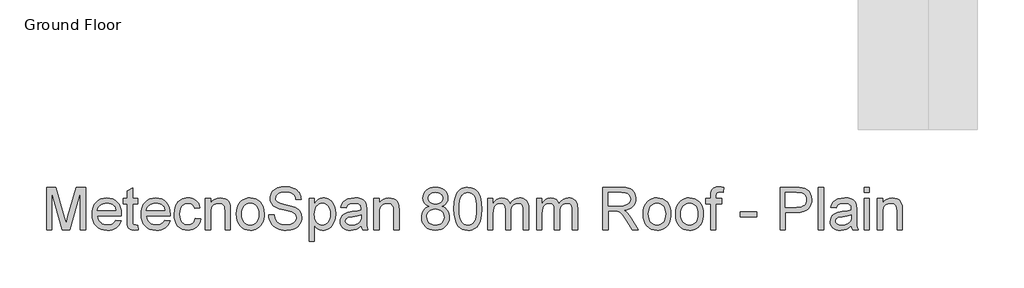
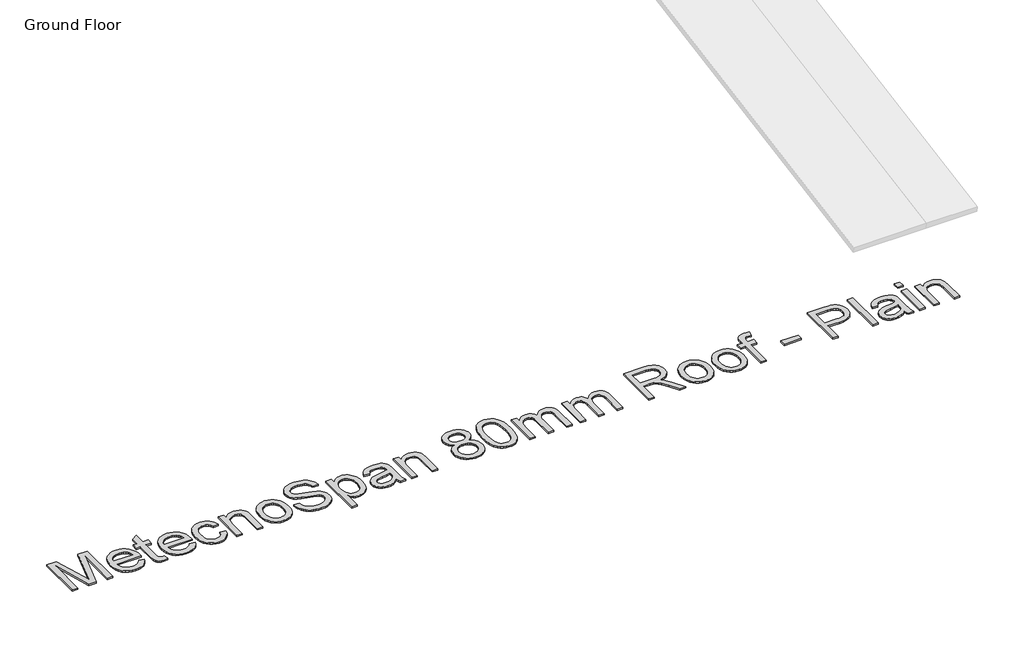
# One storey, part 7 of 14: 1 proxy.
"""IFC4 building model written with IfcOpenShell, lengths in millimetres."""

import ifcopenshell
import ifcopenshell.guid

model = None  # the IFC model being written
_history = None  # IfcOwnerHistory: only IFC2X3 demands one
_inside = {}  # id of a spatial element -> (the spatial element, [elements in it])
_under = {}  # id of a project, library or spatial element -> (it, [spatial elements below it])
_declared = {}  # id of a project -> (the project, [libraries it declares])
_typed = {}  # id of a type object -> (the type object, [elements of that type])
_made_of = {}  # id of a material, layer set ... -> (it, [elements and type objects made of it])


def new_model(schema):
    """Start an empty IFC model of exactly this schema.

    Asked for "IFC4X3", IfcOpenShell would pick the latest addendum, in which some entities
    have other attributes; the version numbers below select the first issue.
    IFC2X3 requires an IfcOwnerHistory on every rooted entity: one is made here for all.
    """
    global model, _history
    if schema == "IFC4X3":
        model = ifcopenshell.file(schema_version=(4, 3, 0, 0))
    else:
        model = ifcopenshell.file(schema=schema)
    _inside.clear()
    _under.clear()
    _declared.clear()
    _typed.clear()
    _made_of.clear()
    _history = None
    if model.schema == "IFC2X3":
        org = make("IfcOrganization", Name="unknown")
        user = make(
            "IfcPersonAndOrganization",
            ThePerson=make("IfcPerson", FamilyName="unknown"),
            TheOrganization=org,
        )
        app = make(
            "IfcApplication",
            ApplicationDeveloper=org,
            Version="unknown",
            ApplicationFullName="unknown",
            ApplicationIdentifier="unknown",
        )
        _history = make(
            "IfcOwnerHistory",
            OwningUser=user,
            OwningApplication=app,
            ChangeAction="ADDED",
            CreationDate=0,
        )
    return model


def make(cls, **values):
    """One entity of the class cls with the attributes given. An attribute that is None is left unset."""
    return model.create_entity(
        cls, **{name: value for name, value in values.items() if value is not None}
    )


def rooted(cls, **values):
    """An entity with a GlobalId (a new one), such as an element, a storey or a relation."""
    return make(cls, GlobalId=ifcopenshell.guid.new(), OwnerHistory=_history, **values)


def si_unit(unit_type, name, prefix=None):
    """IfcSIUnit, for example si_unit("LENGTHUNIT", "METRE", prefix="MILLI")."""
    return make("IfcSIUnit", UnitType=unit_type, Prefix=prefix, Name=name)


def assignment(units):
    """IfcUnitAssignment: the units of a project."""
    return None if units is None else make("IfcUnitAssignment", Units=units)


def point(xyz):
    """IfcCartesianPoint."""
    return None if xyz is None else make("IfcCartesianPoint", Coordinates=xyz)


def direction(xyz):
    """IfcDirection."""
    return None if xyz is None else make("IfcDirection", DirectionRatios=xyz)


def frame(location, z_axis=None, x_axis=None):
    """IfcAxis2Placement3D, a coordinate frame: its origin and axes. An axis left out is left unset."""
    return make(
        "IfcAxis2Placement3D",
        Location=point(location),
        Axis=direction(z_axis),
        RefDirection=direction(x_axis),
    )


def origin():
    """The frame at (0, 0, 0) with its axes left unset."""
    return frame((0.0, 0.0, 0.0))


def origin_with_axes():
    """The frame at (0, 0, 0) with the z axis (0, 0, 1) and the x axis (1, 0, 0) written out."""
    return frame((0.0, 0.0, 0.0), z_axis=(0.0, 0.0, 1.0), x_axis=(1.0, 0.0, 0.0))


def place(relative_to, where):
    """IfcLocalPlacement: puts the frame where relative to a parent placement (None: the world)."""
    return make(
        "IfcLocalPlacement", PlacementRelTo=relative_to, RelativePlacement=where
    )


def context(
    kind, dimensions, precision=None, world=None, true_north=None, identifier=None
):
    """IfcGeometricRepresentationContext, for example the 3D "Model" context."""
    return make(
        "IfcGeometricRepresentationContext",
        ContextIdentifier=identifier,
        ContextType=kind,
        CoordinateSpaceDimension=dimensions,
        Precision=precision,
        WorldCoordinateSystem=world,
        TrueNorth=true_north,
    )


def project(units=None, contexts=None):
    """IfcProject with its units and contexts."""
    return rooted(
        "IfcProject",
        Name="project",
        RepresentationContexts=contexts,
        UnitsInContext=assignment(units),
    )


def spatial(cls, under=None, at=None, **own):
    """A site, building, storey or space (cls), placed at a placement, below another one or the project."""
    s = rooted(cls, ObjectPlacement=at, **own)
    if under is not None:
        _under.setdefault(under.id(), (under, []))[1].append(s)
    return s


def polyline(points):
    """IfcPolyline through the points."""
    return make("IfcPolyline", Points=[point(p) for p in points])


def outline(outer, holes=None, kind="AREA"):
    """IfcArbitraryClosedProfileDef: a profile drawn as a closed curve; with holes, ...WithVoids."""
    if holes is None:
        return make("IfcArbitraryClosedProfileDef", ProfileType=kind, OuterCurve=outer)
    return make(
        "IfcArbitraryProfileDefWithVoids",
        ProfileType=kind,
        OuterCurve=outer,
        InnerCurves=holes,
    )


def extrude(swept, where, along, depth):
    """IfcExtrudedAreaSolid: the profile swept, set in the frame where, extruded along a direction by depth."""
    return make(
        "IfcExtrudedAreaSolid",
        SweptArea=swept,
        Position=where,
        ExtrudedDirection=direction(along),
        Depth=depth,
    )


def shape(context_of_items, identifier, shape_type, items):
    """IfcShapeRepresentation: the items that make up one representation, for example the "Body"."""
    return make(
        "IfcShapeRepresentation",
        ContextOfItems=context_of_items,
        RepresentationIdentifier=identifier,
        RepresentationType=shape_type,
        Items=items,
    )


def made_of(thing, what):
    """Note that an element or type object is made of a material, layer set ...; save() writes the relation."""
    if what is not None:
        _made_of.setdefault(what.id(), (what, []))[1].append(thing)
    return thing


def element(
    cls,
    number,
    at=None,
    inside=None,
    cuts=None,
    type_object=None,
    material=None,
    context=None,
    identifier="Body",
    shape_type=None,
    held_by="IfcProductDefinitionShape",
    body=None,
    shapes=None,
    **own,
):
    """One element of the class cls, such as IfcWall. Its Tag is "e" and its number.

    at: its placement. inside: the storey or other place that contains it. cuts: it is an
    opening in that element (IfcRelVoidsElement). A single representation is given by context,
    identifier, shape_type and body (its items); several are given by shapes. held_by: the class
    of the entity that holds the representations. save() writes the other relations.
    """
    e = rooted(cls, Tag="e%d" % number, ObjectPlacement=at, **own)
    if body is not None:
        shapes = [shape(context, identifier, shape_type, body)]
    if shapes is not None:
        e.Representation = make(held_by, Representations=shapes)
    if inside is not None:
        _inside.setdefault(inside.id(), (inside, []))[1].append(e)
    if cuts is not None:
        rooted(
            "IfcRelVoidsElement", RelatingBuildingElement=cuts, RelatedOpeningElement=e
        )
    if type_object is not None:
        _typed.setdefault(type_object.id(), (type_object, []))[1].append(e)
    return made_of(e, material)


def aggregate(whole, parts):
    """IfcRelAggregates: a whole, such as a stair, and the parts it consists of."""
    return rooted("IfcRelAggregates", RelatingObject=whole, RelatedObjects=parts)


def save(model, path):
    """Write the relations noted so far, then the file.

    IfcRelAggregates (storeys below a building ...), IfcRelContainedInSpatialStructure (elements
    in a storey), IfcRelDefinesByType, IfcRelAssociatesMaterial and IfcRelDeclares: one each for
    every whole, place, type object, material and project.
    """
    for whole, parts in _under.values():
        aggregate(whole, parts)
    for where, things in _inside.values():
        rooted(
            "IfcRelContainedInSpatialStructure",
            RelatedElements=things,
            RelatingStructure=where,
        )
    for kind, things in _typed.values():
        rooted("IfcRelDefinesByType", RelatedObjects=things, RelatingType=kind)
    for what, things in _made_of.values():
        rooted("IfcRelAssociatesMaterial", RelatedObjects=things, RelatingMaterial=what)
    for by, libraries in _declared.values():
        rooted("IfcRelDeclares", RelatingContext=by, RelatedDefinitions=libraries)
    model.write(path)


model = new_model("IFC4")

# Units and contexts
model_context = context("Model", 3, world=origin())
ifc_project = project(units=[si_unit("LENGTHUNIT", "METRE", prefix="MILLI")], contexts=[model_context])

# Site, building, storey
site = spatial("IfcSite", under=ifc_project)
building = spatial("IfcBuilding", under=site)
storey = spatial("IfcBuildingStorey", under=building, Name="Ground Floor", Elevation=0.0)

# Proxy
placement = place(None, origin())
element("IfcBuildingElementProxy", 1, Name="600mm Arial", ObjectType="600mm Arial", at=placement, inside=storey, context=model_context, shape_type="SweptSolid", body=[
    extrude(outline(polyline([(42888.0190952, -5382.5513721), (42888.0190952, -4779.8135112), (43017.6607103, -4779.8135112), (43140.9747551, -5204.6436392), (43165.843578, -5293.3767765), (43192.77254, -5197.2859993), (43314.0264456, -4779.8135112), (43443.6680607, -4779.8135112), (43443.6680607, -5382.5513721), (43368.3258281, -5382.5513721), (43368.3258281, -4855.1557438), (43216.9055989, -5382.5513721), (43114.7815571, -5382.5513721), (42963.3613278, -4855.1557438), (42963.3613278, -5382.5513721), (42888.0190952, -5382.5513721)])), origin_with_axes(), (0.0, 0.0, 1.0), 20.0),
    extrude(outline(polyline([(43876.0029815, -5250.702465), (43949.8736861, -5260.1202441), (43938.5475192, -5289.7071536), (43923.2574238, -5315.78079), (43904.0033998, -5338.3411533), (43880.7854474, -5357.3882436), (43853.8426898, -5372.5173907), (43823.4142503, -5383.3239243), (43789.5001288, -5389.8078444), (43752.1003255, -5391.9691512), (43705.351721, -5388.2397474), (43663.6982821, -5377.0515363), (43627.1400088, -5358.4045176), (43595.6769012, -5332.2986916), (43570.3758169, -5299.460625), (43552.3036139, -5260.6168848), (43541.4602921, -5215.7674711), (43537.8458515, -5164.9123837), (43541.4970803, -5112.3328496), (43552.4507667, -5065.9889152), (43570.7069107, -5025.8805807), (43596.2655123, -4992.007846), (43627.6458465, -4965.0972781), (43663.3671883, -4945.8754438), (43703.4295375, -4934.3423433), (43747.8328944, -4930.4979764), (43790.8061099, -4934.3331462), (43829.6682442, -4945.8386556), (43864.4192972, -4965.0145046), (43895.0592688, -4991.8606932), (43920.070646, -5025.6598515), (43937.9359154, -5065.6946096), (43948.655077, -5111.9649676), (43952.2281309, -5164.4709254), (43951.7866725, -5184.7780115), (43613.1880841, -5184.7780115), (43617.5520843, -5214.8431675), (43626.2295009, -5241.1743213), (43639.2203338, -5263.7714729), (43656.5245832, -5282.6346222), (43677.1857557, -5297.5062519), (43700.2473583, -5308.1288445), (43725.7093909, -5314.5024), (43753.5718535, -5316.6269186), (43793.670991, -5312.6905812), (43827.4425581, -5300.8815692), (43854.886555, -5280.4641184), (43876.0029815, -5250.702465)]), holes=[polyline([(43613.1880841, -5109.4357789), (43876.8858983, -5109.4357789), (43866.695567, -5069.630947), (43857.9307785, -5053.9775681), (43846.7195747, -5041.1568806), (43826.1733652, -5025.7058368), (43802.7944644, -5014.6693769), (43776.5828723, -5008.047501), (43747.5385888, -5005.840209), (43721.0464866, -5007.6014441), (43696.7524793, -5012.8851492), (43674.656567, -5021.6913245), (43654.7587496, -5034.0199699), (43638.0615055, -5049.3008682), (43625.5673133, -5066.9638025), (43617.2761728, -5087.0087727), (43613.1880841, -5109.4357789)])]), origin_with_axes(), (0.0, 0.0, 1.0), 20.0),
    extrude(outline(polyline([(44187.6726078, -5319.7171273), (44197.0903869, -5384.7586641), (44140.7308652, -5391.9691512), (44104.5680651, -5388.8421542), (44077.6023148, -5379.4611633), (44058.5460275, -5365.0034009), (44046.111616, -5346.6460894), (44039.2690109, -5315.1186024), (44036.9881426, -5261.1503137), (44036.9881426, -5015.2579881), (43980.4814681, -5015.2579881), (43980.4814681, -4939.9157555), (44036.9881426, -4939.9157555), (44036.9881426, -4832.3470601), (44112.3303752, -4788.0540679), (44112.3303752, -4939.9157555), (44187.6726078, -4939.9157555), (44187.6726078, -5015.2579881), (44112.3303752, -5015.2579881), (44112.3303752, -5258.9430217), (44116.3035007, -5297.7913604), (44129.1793706, -5311.550147), (44140.0502835, -5315.3577257), (44154.8575338, -5316.6269186), (44187.6726078, -5319.7171273)])), origin_with_axes(), (0.0, 0.0, 1.0), 20.0),
    extrude(outline(polyline([(44572.9186331, -5250.702465), (44646.7893378, -5260.1202441), (44635.4631708, -5289.7071536), (44620.1730754, -5315.78079), (44600.9190515, -5338.3411533), (44577.7010991, -5357.3882436), (44550.7583415, -5372.5173907), (44520.3299019, -5383.3239243), (44486.4157805, -5389.8078444), (44449.0159772, -5391.9691512), (44402.2673726, -5388.2397474), (44360.6139337, -5377.0515363), (44324.0556605, -5358.4045176), (44292.5925528, -5332.2986916), (44267.2914686, -5299.460625), (44249.2192656, -5260.6168848), (44238.3759438, -5215.7674711), (44234.7615032, -5164.9123837), (44238.412732, -5112.3328496), (44249.3664184, -5065.9889152), (44267.6225624, -5025.8805807), (44293.181164, -4992.007846), (44324.5614982, -4965.0972781), (44360.2828399, -4945.8754438), (44400.3451892, -4934.3423433), (44444.748546, -4930.4979764), (44487.7217616, -4934.3331462), (44526.5838958, -4945.8386556), (44561.3349488, -4965.0145046), (44591.9749205, -4991.8606932), (44616.9862976, -5025.6598515), (44634.851567, -5065.6946096), (44645.5707287, -5111.9649676), (44649.1437825, -5164.4709254), (44648.7023241, -5184.7780115), (44310.1037358, -5184.7780115), (44314.467736, -5214.8431675), (44323.1451525, -5241.1743213), (44336.1359855, -5263.7714729), (44353.4402348, -5282.6346222), (44374.1014074, -5297.5062519), (44397.1630099, -5308.1288445), (44422.6250425, -5314.5024), (44450.4875051, -5316.6269186), (44490.5866426, -5312.6905812), (44524.3582098, -5300.8815692), (44551.8022066, -5280.4641184), (44572.9186331, -5250.702465)]), holes=[polyline([(44310.1037358, -5109.4357789), (44573.8015499, -5109.4357789), (44563.6112187, -5069.630947), (44554.8464301, -5053.9775681), (44543.6352263, -5041.1568806), (44523.0890169, -5025.7058368), (44499.7101161, -5014.6693769), (44473.4985239, -5008.047501), (44444.4542404, -5005.840209), (44417.9621382, -5007.6014441), (44393.668131, -5012.8851492), (44371.5722187, -5021.6913245), (44351.6744012, -5034.0199699), (44334.9771572, -5049.3008682), (44322.4829649, -5066.9638025), (44314.1918245, -5087.0087727), (44310.1037358, -5109.4357789)])]), origin_with_axes(), (0.0, 0.0, 1.0), 20.0),
    extrude(outline(polyline([(45007.0193875, -5222.4491278), (45082.3616201, -5231.8669069), (45074.1670486, -5267.4181032), (45061.3555581, -5298.8766123), (45043.9271486, -5326.2424342), (45021.8818201, -5349.5155689), (44996.1484745, -5368.0890112), (44967.656014, -5381.3557556), (44936.4044385, -5389.3158023), (44902.393748, -5391.9691512), (44860.1379024, -5388.2673386), (44822.2506554, -5377.1619009), (44788.7320071, -5358.652838), (44759.5819575, -5332.7401499), (44735.986926, -5299.9112804), (44719.1333321, -5260.653673), (44709.0211758, -5214.9673277), (44705.650457, -5162.8522446), (44711.4078102, -5095.805751), (44718.6045018, -5065.6348288), (44728.6798699, -5037.6987898), (44741.7028925, -5012.558654), (44757.7425475, -4990.7754413), (44776.7988349, -4972.3491519), (44798.8717546, -4957.2797857), (44822.9634267, -4945.5627441), (44848.0759714, -4937.1934287), (44874.2093887, -4932.1718395), (44901.3636784, -4930.4979764), (44934.7903562, -4932.7972389), (44965.0256577, -4939.6950263), (44992.0695829, -4951.1913387), (45015.9221317, -4967.2861759), (45036.1786341, -4987.6116562), (45052.4344198, -5011.7998974), (45064.6894887, -5039.8508995), (45072.943841, -5071.7646626), (44997.6016084, -5081.1824416), (44983.9347923, -5048.3121854), (44962.6528188, -5024.7493436), (44934.9329105, -5010.5674927), (44901.9522896, -5005.840209), (44876.3523013, -5008.1670627), (44853.2631076, -5015.1476235), (44832.6847085, -5026.7818916), (44814.617104, -5043.0698669), (44799.9064227, -5064.3886286), (44789.3987932, -5091.1152555), (44783.0942155, -5123.2497478), (44780.9926896, -5160.7921054), (44783.0482303, -5198.9000816), (44789.2148522, -5231.4070544), (44799.4925554, -5258.3130238), (44813.88134, -5279.6179898), (44831.5902595, -5295.8093962), (44851.8283678, -5307.3746864), (44874.5956648, -5314.3138605), (44899.8921505, -5316.6269186), (44938.906036, -5310.8511712), (44955.778024, -5303.6314871), (44970.8933755, -5293.5239293), (44983.8290262, -5280.4181332), (44994.1619117, -5264.2037342), (45001.8920321, -5244.8807324), (45007.0193875, -5222.4491278)])), origin_with_axes(), (0.0, 0.0, 1.0), 20.0),
    extrude(outline(polyline([(45148.2860736, -5382.5513721), (45148.2860736, -4939.9157555), (45223.6283062, -4939.9157555), (45223.6283062, -5001.7199307), (45249.8031102, -4970.5603257), (45281.2386267, -4948.303465), (45317.9348557, -4934.9493486), (45359.8917972, -4930.4979764), (45397.0294846, -4934.0848259), (45431.0401751, -4944.8453742), (45459.4038769, -4961.4368522), (45479.6005985, -4982.5164905), (45493.3042028, -5008.0291069), (45502.188553, -5037.919519), (45506.1616785, -5110.7601541), (45506.1616785, -5382.5513721), (45430.8194459, -5382.5513721), (45430.8194459, -5120.9136971), (45428.6489421, -5081.9549938), (45422.1374308, -5054.2534796), (45410.1260837, -5034.406246), (45391.4560724, -5019.0103845), (45367.5253486, -5009.1327529), (45339.7318639, -5005.840209), (45316.8542023, -5007.6888161), (45295.6044186, -5013.2346371), (45275.9825126, -5022.4776723), (45257.9884846, -5035.4179214), (45242.9559065, -5053.5269127), (45232.2183508, -5078.2761739), (45225.7758174, -5109.6657051), (45223.6283062, -5147.6955064), (45223.6283062, -5382.5513721), (45148.2860736, -5382.5513721)])), origin_with_axes(), (0.0, 0.0, 1.0), 20.0),
    extrude(outline(polyline([(45590.9216902, -5161.2335638), (45594.9959833, -5103.9083519), (45607.2188626, -5054.510997), (45627.5903281, -5013.0414991), (45656.1103797, -4979.4998582), (45684.8235695, -4958.0615349), (45716.5166033, -4942.7484469), (45751.1894814, -4933.560594), (45788.8422036, -4930.4979764), (45830.4082705, -4934.2273801), (45867.9920149, -4945.4155913), (45901.5934366, -4964.06261), (45931.2125357, -4990.168436), (45955.3869813, -5022.8501528), (45972.6544425, -5061.2248434), (45983.0149192, -5105.2925079), (45986.4684114, -5155.0531463), (45984.9417011, -5195.38221), (45980.3615703, -5231.1679311), (45972.7280189, -5262.4103095), (45962.0410469, -5289.1093453), (45948.4340116, -5312.1709479), (45932.0402702, -5332.5010267), (45912.8598227, -5350.0995816), (45890.8926691, -5364.9666127), (45866.994135, -5376.7802233), (45842.019546, -5385.2185166), (45815.9689022, -5390.2814925), (45788.8422036, -5391.9691512), (45746.6691314, -5388.253543), (45708.7358992, -5377.1067186), (45675.0425069, -5358.5286778), (45645.5889547, -5332.5194208), (45621.6720265, -5299.5204058), (45604.5885063, -5259.9730913), (45594.3383942, -5213.8774773), (45590.9216902, -5161.2335638)]), holes=[polyline([(45666.2639228, -5161.086411), (45668.4436236, -5197.6308887), (45674.9827261, -5229.2733388), (45685.8812302, -5256.0137613), (45701.139136, -5277.8521563), (45719.6987826, -5294.8161148), (45740.5025094, -5306.933228), (45763.5503164, -5314.2034959), (45788.8422036, -5316.6269186), (45814.0053321, -5314.1897003), (45836.9611686, -5306.8780457), (45857.7097131, -5294.6919546), (45876.2509657, -5277.6314271), (45891.5088714, -5255.5769015), (45902.4073755, -5228.4088161), (45908.946478, -5196.127171), (45911.1261788, -5158.7319662), (45908.9326824, -5123.3463168), (45902.3521932, -5092.5316012), (45891.3847112, -5066.2878194), (45876.0302365, -5044.6149713), (45857.420006, -5027.6510128), (45836.6852571, -5015.5338996), (45813.8259896, -5008.2636317), (45788.8422036, -5005.840209), (45763.5503164, -5008.2544346), (45740.5025094, -5015.4971114), (45719.6987826, -5027.5682394), (45701.139136, -5044.4678185), (45685.8812302, -5066.2418341), (45674.9827261, -5092.9362714), (45668.4436236, -5124.5511304), (45666.2639228, -5161.086411)])]), origin_with_axes(), (0.0, 0.0, 1.0), 20.0),
    extrude(outline(polyline([(46052.3928649, -5175.3602324), (46127.7350976, -5175.3602324), (46136.3803244, -5217.1700212), (46152.0153092, -5250.7760414), (46176.4058855, -5277.4474861), (46211.3178869, -5298.453548), (46253.9921983, -5312.0835759), (46301.6697049, -5316.6269186), (46343.6450405, -5313.1872219), (46380.3964518, -5302.8681319), (46410.1764994, -5286.5341714), (46431.2377436, -5265.0498628), (46443.7641255, -5240.3833751), (46447.9395862, -5214.5028767), (46444.8125892, -5189.2845659), (46435.4315983, -5167.4875577), (46416.375311, -5148.8911229), (46384.2224246, -5133.2745322), (46274.5200136, -5104.5061601), (46202.5071131, -5085.4682669), (46156.4298932, -5067.3500786), (46118.9243238, -5042.0030092), (46092.3448496, -5011.2848626), (46076.5075297, -4975.8578264), (46071.2284231, -4936.3840883), (46072.8608995, -4913.9478852), (46077.7583285, -4892.256643), (46085.9207103, -4871.3103619), (46097.3480448, -4851.1090419), (46111.9115732, -4832.4758188), (46129.482537, -4816.2338287), (46150.0609361, -4802.3830716), (46173.6467706, -4790.9235475), (46226.6585661, -4775.527686), (46285.3357443, -4770.3957321), (46348.9057531, -4775.7668093), (46404.5295107, -4791.8800406), (46428.8649047, -4803.8821907), (46450.2204545, -4818.4043325), (46468.5961602, -4835.4464659), (46483.9920217, -4855.008591), (46496.2884774, -4876.5204907), (46505.3659656, -4899.4119478), (46511.2244864, -4923.6829625), (46513.8640397, -4949.3335346), (46438.5218071, -4949.3335346), (46433.4818237, -4925.2924462), (46424.6894441, -4904.3783548), (46412.144668, -4886.5912603), (46395.8474956, -4871.9311628), (46375.4944243, -4860.4716386), (46350.7819512, -4852.2862642), (46321.7100766, -4847.3750396), (46288.2788003, -4845.7379647), (46253.7806662, -4847.3566455), (46224.3041213, -4852.2126878), (46199.8491657, -4860.3060917), (46180.4157993, -4871.6368572), (46165.608549, -4885.2576881), (46155.0319416, -4900.2212882), (46148.6859772, -4916.5276577), (46146.5706557, -4934.1767964), (46148.0697748, -4949.3611257), (46152.5671322, -4963.1291094), (46160.0627279, -4975.4807474), (46170.5565618, -4986.4160397), (46187.0744634, -4996.7719179), (46213.0837204, -5007.2381606), (46293.576301, -5028.5017399), (46376.6440555, -5048.6984615), (46426.896736, -5066.320009), (46469.846959, -5093.6536413), (46486.4522325, -5109.7208874), (46499.8109475, -5127.3884202), (46510.0794537, -5146.5642692), (46517.4141009, -5167.1564639), (46523.2818188, -5212.5898903), (46521.5941601, -5236.1573306), (46516.5311842, -5259.0349922), (46508.0928909, -5281.222875), (46496.2792803, -5302.7209791), (46481.2972861, -5322.6969715), (46463.3538418, -5340.318519), (46442.4489474, -5355.5856218), (46418.5826029, -5368.4982799), (46392.4491857, -5378.7667861), (46364.743073, -5386.1014333), (46304.6127608, -5391.9691512), (46266.0725233, -5390.3872586), (46230.7972385, -5385.6415809), (46198.7869064, -5377.732118), (46170.041527, -5366.6588699), (46144.3863564, -5352.4034426), (46121.6466505, -5334.9474419), (46101.8224095, -5314.2908679), (46084.9136333, -5290.4337205), (46071.2928024, -5264.1485519), (46061.3323974, -5236.2079144), (46055.0324183, -5206.6118079), (46052.3928649, -5175.3602324)])), origin_with_axes(), (0.0, 0.0, 1.0), 20.0),
    extrude(outline(polyline([(46626.8773886, -5552.0713955), (46626.8773886, -4939.9157555), (46702.2196212, -4939.9157555), (46702.2196212, -5013.7864601), (46726.7941385, -4977.3477485), (46754.3117117, -4951.3200973), (46786.3910217, -4935.7035067), (46824.6507492, -4930.4979764), (46850.9267207, -4932.3189923), (46875.6024056, -4937.7820399), (46898.6778037, -4946.8871193), (46920.1529152, -4959.6342304), (46939.5586904, -4975.6922795), (46956.4260799, -4994.7301728), (46970.7550836, -5016.7479102), (46982.5457016, -5041.7454918), (46998.3278391, -5097.2588848), (47003.5885517, -5157.8490494), (46997.6472575, -5222.2835809), (46990.2206397, -5251.9486653), (46979.8233748, -5279.9122954), (46966.5980171, -5305.4433059), (46950.6871208, -5327.8105312), (46932.0906859, -5347.0139714), (46910.8087125, -5363.0536264), (46887.8850657, -5375.7041685), (46864.3636106, -5384.74027), (46840.2443473, -5390.1619309), (46815.5272757, -5391.9691512), (46780.8911859, -5387.1315029), (46749.9707042, -5372.6185582), (46723.5015946, -5350.7111854), (46702.2196212, -5323.6902529), (46702.2196212, -5552.0713955), (46626.8773886, -5552.0713955)]), holes=[polyline([(46702.2196212, -5164.765231), (46704.2567678, -5201.0751839), (46710.3682074, -5232.3083653), (46720.5539402, -5258.4647751), (46734.813966, -5279.5444134), (46751.9802596, -5295.7680094), (46770.8847956, -5307.3562923), (46791.5275741, -5314.309262), (46813.908595, -5316.6269186), (46836.6115126, -5314.2264885), (46857.6313701, -5307.0251985), (46876.9681675, -5295.0230484), (46894.6219047, -5278.2200383), (46909.332586, -5256.3770448), (46919.8402155, -5229.2549447), (46926.1447932, -5196.853738), (46928.2463191, -5159.1734246), (46926.1953769, -5123.1761714), (46920.0425506, -5091.9981723), (46909.78784, -5065.6394273), (46895.4312451, -5044.0999365), (46878.2235648, -5027.3613058), (46859.4155978, -5015.4051409), (46839.0073441, -5008.231442), (46816.9988037, -5005.840209), (46795.0592412, -5008.3831933), (46774.4164628, -5016.0121462), (46755.0704684, -5028.7270677), (46737.021258, -5046.5279577), (46721.7955419, -5069.175693), (46710.9200304, -5096.4311503), (46704.3947235, -5128.2943297), (46702.2196212, -5164.765231)])]), origin_with_axes(), (0.0, 0.0, 1.0), 20.0),
    extrude(outline(polyline([(47370.8819357, -5326.0446976), (47334.8846824, -5356.909997), (47297.8205714, -5377.1067186), (47258.843474, -5388.253543), (47217.1072617, -5391.9691512), (47183.5610222, -5389.7342681), (47154.1442582, -5383.0296187), (47128.8569696, -5371.8552031), (47107.6991563, -5356.2110212), (47090.9927152, -5337.0903545), (47079.059543, -5315.4864844), (47071.8996397, -5291.3994107), (47069.5130052, -5264.8291336), (47073.1182488, -5233.5959522), (47083.9339794, -5205.2322504), (47100.6174279, -5180.9520387), (47121.8258249, -5161.9693278), (47146.7498301, -5147.62193), (47174.580103, -5137.2476577), (47239.7687926, -5125.9168923), (47316.8032824, -5113.9975156), (47370.4404773, -5100.0179998), (47370.8819357, -5083.2425808), (47365.6947995, -5049.6181665), (47359.2108794, -5037.1653609), (47350.1333911, -5027.6188231), (47334.443224, -5018.0906795), (47315.3317544, -5011.2848626), (47266.8449074, -5005.840209), (47221.963304, -5009.4638467), (47190.619758, -5020.3347596), (47169.2458141, -5040.4395107), (47154.2730169, -5071.7646626), (47078.9307843, -5062.3468835), (47092.0089892, -5021.1441), (47111.5251291, -4988.7704845), (47139.3002197, -4964.0120262), (47177.155277, -4945.6547146), (47223.4532261, -4934.287161), (47276.5569921, -4930.4979764), (47327.4902543, -4933.8457026), (47367.8653033, -4943.888881), (47398.3075384, -4958.9904369), (47419.442359, -4977.5132954), (47433.458663, -5000.4139496), (47442.5453483, -5028.6488927), (47446.2241683, -5094.5733463), (47446.2241683, -5188.3096786), (47450.050141, -5319.2020925), (47455.7155237, -5351.557314), (47465.0597264, -5382.5513721), (47389.7174938, -5382.5513721), (47377.6509644, -5356.358174), (47370.8819357, -5326.0446976)]), holes=[polyline([(47370.8819357, -5175.3602324), (47320.2613731, -5187.9050084), (47249.3337245, -5198.4632217), (47184.5129169, -5210.6769039), (47167.6455274, -5219.0278252), (47155.1559337, -5230.5425317), (47147.4304118, -5244.3381065), (47144.8552378, -5259.5316329), (47150.4654382, -5281.9356464), (47167.2960395, -5300.292958), (47194.9791597, -5312.5434284), (47233.1469167, -5316.6269186), (47273.6139361, -5312.1203641), (47309.3720661, -5298.6007008), (47338.3611673, -5278.6798908), (47358.5211006, -5254.9698962), (47367.4606331, -5230.5425317), (47370.4404773, -5196.6973881), (47370.8819357, -5175.3602324)])]), origin_with_axes(), (0.0, 0.0, 1.0), 20.0),
    extrude(outline(polyline([(47549.8197381, -5382.5513721), (47549.8197381, -4939.9157555), (47625.1619707, -4939.9157555), (47625.1619707, -5001.7199307), (47651.3367747, -4970.5603257), (47682.7722912, -4948.303465), (47719.4685202, -4934.9493486), (47761.4254617, -4930.4979764), (47798.5631492, -4934.0848259), (47832.5738396, -4944.8453742), (47860.9375414, -4961.4368522), (47881.134263, -4982.5164905), (47894.8378673, -5008.0291069), (47903.7222175, -5037.919519), (47907.695343, -5110.7601541), (47907.695343, -5382.5513721), (47832.3531104, -5382.5513721), (47832.3531104, -5120.9136971), (47830.1826066, -5081.9549938), (47823.6710953, -5054.2534796), (47811.6597482, -5034.406246), (47792.9897369, -5019.0103845), (47769.0590131, -5009.1327529), (47741.2655284, -5005.840209), (47718.3878668, -5007.6888161), (47697.1380831, -5013.2346371), (47677.5161772, -5022.4776723), (47659.5221491, -5035.4179214), (47644.489571, -5053.5269127), (47633.7520153, -5078.2761739), (47627.3094819, -5109.6657051), (47625.1619707, -5147.6955064), (47625.1619707, -5382.5513721), (47549.8197381, -5382.5513721)])), origin_with_axes(), (0.0, 0.0, 1.0), 20.0),
    extrude(outline(polyline([(48337.675819, -5050.5746596), (48297.3375582, -5030.7090319), (48281.6795808, -5018.1274677), (48269.0290387, -5003.7800699), (48252.308802, -4970.3395965), (48246.7353898, -4930.9394348), (48249.7704162, -4900.2120912), (48258.8754956, -4872.0415274), (48274.0506279, -4846.4277435), (48295.2958131, -4823.3707394), (48321.5901787, -4804.3144521), (48351.9128522, -4790.7028183), (48386.2638335, -4782.535838), (48424.6431226, -4779.8135112), (48463.2063528, -4782.6002173), (48497.8148515, -4790.9603357), (48528.4686187, -4804.8938662), (48555.1676545, -4824.400809), (48576.7991158, -4847.9084685), (48592.2501596, -4873.8441492), (48601.5207859, -4902.207851), (48604.6109947, -4932.999574), (48599.1111589, -4971.1305428), (48582.6116514, -5004.0007991), (48570.1910355, -5018.2516278), (48554.9285312, -5030.7642142), (48515.8778574, -5050.5746596), (48540.6409142, -5061.1098803), (48562.2493829, -5074.4685952), (48580.7032635, -5090.6508045), (48596.002556, -5109.6565081), (48608.0093046, -5131.0626417), (48616.5855536, -5154.446141), (48621.731303, -5179.807006), (48623.4465528, -5207.1452368), (48620.0436444, -5244.7243826), (48609.834919, -5279.1765315), (48592.8203767, -5310.5016833), (48569.0000176, -5338.6998383), (48539.6246402, -5362.0051627), (48505.9450436, -5378.6518229), (48467.9612276, -5388.6398191), (48425.6731922, -5391.9691512), (48383.3851569, -5388.6260235), (48345.4013409, -5378.5966406), (48311.7217442, -5361.8810025), (48282.3463669, -5338.4791091), (48258.5260077, -5310.0832176), (48241.5114654, -5278.3855852), (48231.3027401, -5243.3862118), (48227.8998316, -5205.0850976), (48229.6840593, -5176.5006666), (48235.0367423, -5150.3442567), (48243.9578807, -5126.6158681), (48256.4474744, -5105.3155005), (48272.229612, -5086.8294303), (48291.028382, -5071.5439334), (48312.8437843, -5059.4590098), (48337.675819, -5050.5746596)]), holes=[polyline([(48322.0776224, -4933.1467268), (48323.7468869, -4950.4187865), (48328.7546806, -4966.0353772), (48337.1010034, -4979.9964989), (48348.7858552, -4992.3021516), (48363.6620834, -5002.3453301), (48381.5825351, -5009.519029), (48402.5472103, -5013.8232483), (48426.556109, -5015.2579881), (48449.971798, -5013.8324454), (48470.4812192, -5009.5558172), (48488.0843727, -5002.4281035), (48502.7812584, -4992.4493044), (48514.3695413, -4980.4011691), (48522.6468862, -4967.0654467), (48527.6132931, -4952.4421374), (48529.2687621, -4936.5312411), (48527.5581108, -4919.999544), (48522.426157, -4904.8382073), (48513.8729006, -4891.047231), (48501.8983416, -4878.6266151), (48486.8703621, -4868.3581089), (48469.1568441, -4861.0234616), (48448.7577874, -4856.6226733), (48425.6731922, -4855.1557438), (48402.4092546, -4856.5904836), (48381.9136289, -4860.8947029), (48364.1863153, -4868.0684018), (48349.2273136, -4878.1115803), (48337.3493237, -4890.1597157), (48328.8650452, -4903.3482852), (48323.7744781, -4917.6772889), (48322.0776224, -4933.1467268)]), polyline([(48303.2420642, -5202.4363473), (48306.3874553, -5231.2599016), (48315.8236285, -5259.1637509), (48333.2428409, -5283.4991449), (48360.3373499, -5301.6173332), (48392.7845419, -5312.8745222), (48426.2618034, -5316.6269186), (48453.5034652, -5314.6541514), (48477.5445535, -5308.7358498), (48498.3850686, -5298.8720138), (48516.0250102, -5285.0626434), (48530.0597084, -5268.2090495), (48540.0844927, -5249.2125429), (48546.0993634, -5228.0731238), (48548.1043202, -5204.790792), (48546.034984, -5181.1359797), (48539.8269753, -5159.614883), (48529.4802942, -5140.2275019), (48514.9949407, -5122.9738363), (48496.8767524, -5108.8103795), (48475.6315672, -5098.6936246), (48451.259385, -5092.6235717), (48423.7602059, -5090.6002207), (48396.9186158, -5092.5959805), (48373.1948256, -5098.58326), (48352.5888354, -5108.5620591), (48335.100645, -5122.5323779), (48321.1625159, -5139.5009349), (48311.2067094, -5158.4744488), (48305.2332255, -5179.4529196), (48303.2420642, -5202.4363473)])]), origin_with_axes(), (0.0, 0.0, 1.0), 20.0),
    extrude(outline(polyline([(48689.3710064, -5086.038484), (48694.9076304, -4989.5614307), (48701.8284104, -4948.6483544), (48711.5175025, -4912.6189115), (48723.9335198, -4881.1787964), (48739.0350757, -4854.0337037), (48756.8221702, -4831.1836333), (48777.2948032, -4812.6285852), (48800.5219527, -4798.2719903), (48826.5725965, -4788.0172797), (48855.4467346, -4781.8644533), (48887.144367, -4779.8135112), (48933.5710748, -4784.6695535), (48975.1417402, -4799.2376805), (49009.9065888, -4822.9476751), (49035.9158458, -4855.2293202), (49055.5607444, -4895.8067043), (49071.2325174, -4944.4039158), (49081.496425, -5006.1161205), (49084.9177276, -5086.038484), (49079.4362859, -5181.9637142), (49072.5844837, -5222.7388349), (49062.9919607, -5258.7222925), (49050.6725124, -5290.1762031), (49035.6399343, -5317.3626825), (49017.8942266, -5340.2817308), (48997.4353891, -5358.933348), (48974.1806485, -5373.3865119), (48948.0472313, -5383.7102004), (48919.0351374, -5389.9044135), (48887.144367, -5391.9691512), (48845.6472779, -5388.3823017), (48808.8590784, -5377.6217534), (48776.7797684, -5359.6875061), (48749.409348, -5334.5795599), (48723.1425735, -5289.1921188), (48704.3805918, -5232.6394591), (48693.1234027, -5164.9215808), (48689.3710064, -5086.038484)]), holes=[polyline([(48764.713239, -5085.8913312), (48766.920531, -5151.3881219), (48773.5424069, -5204.4045159), (48784.5788667, -5244.9405133), (48800.0299105, -5272.9961139), (48818.7183159, -5292.084591), (48839.4668604, -5305.7192174), (48862.2755441, -5313.8999933), (48887.144367, -5316.6269186), (48912.0131899, -5313.8907962), (48934.8218736, -5305.6824292), (48955.5704181, -5292.0018175), (48974.2588234, -5272.8489611), (48989.7098672, -5244.7473752), (49000.7463271, -5204.2205749), (49007.368203, -5151.2685603), (49009.575495, -5085.8913312), (49007.4417794, -5022.1281844), (49001.0406327, -4970.0452909), (48990.3720548, -4929.6426508), (48975.4360458, -4900.920264), (48957.0603402, -4880.8982864), (48936.0726723, -4866.5968739), (48912.4730423, -4858.0160263), (48886.2614502, -4855.1557438), (48861.521386, -4857.6757355), (48839.0989784, -4865.2357105), (48818.9942274, -4877.8356688), (48801.2071329, -4895.4756105), (48785.2410543, -4926.7455801), (48773.8367125, -4968.9048567), (48766.9941074, -5021.9534404), (48764.713239, -5085.8913312)])]), origin_with_axes(), (0.0, 0.0, 1.0), 20.0),
    extrude(outline(polyline([(49169.6777393, -5382.5513721), (49169.6777393, -4939.9157555), (49245.0199719, -4939.9157555), (49245.0199719, -5012.7563905), (49267.6815028, -4979.2975231), (49296.8177568, -4953.0859309), (49331.4354526, -4936.144965), (49370.5413086, -4930.4979764), (49412.4430679, -4936.2553296), (49430.2761476, -4943.4520212), (49446.0306941, -4953.5273893), (49471.1202461, -4981.1737213), (49487.5277831, -5018.0538913), (49514.990174, -4979.7481785), (49546.3153259, -4952.3869551), (49581.5032388, -4935.9702211), (49620.5539126, -4930.4979764), (49650.7156376, -4932.7742463), (49677.1893457, -4939.6030558), (49699.9750368, -4950.984405), (49719.0727109, -4966.9182939), (49734.1696682, -4987.5886635), (49744.9532092, -5013.1794548), (49751.4233338, -5043.6906678), (49753.580042, -5079.1223025), (49753.580042, -5382.5513721), (49678.2378094, -5382.5513721), (49678.2378094, -5111.495918), (49676.4903699, -5073.9167722), (49671.2480515, -5048.5880969), (49661.4256022, -5031.2424608), (49645.9377702, -5017.6124329), (49626.0169602, -5008.783265), (49602.8955768, -5005.840209), (49581.5446255, -5007.7256043), (49562.0790694, -5013.3817899), (49544.4989086, -5022.8087661), (49528.804143, -5036.0065326), (49515.8960835, -5053.3613658), (49506.676041, -5075.2595415), (49501.1440155, -5101.7010599), (49499.300007, -5132.685921), (49499.300007, -5382.5513721), (49423.9577743, -5382.5513721), (49423.9577743, -5103.1082086), (49419.5983727, -5060.5074735), (49414.1491206, -5043.7872368), (49406.5201678, -5030.1204207), (49396.4080114, -5019.4978281), (49383.509149, -5011.910262), (49367.8235804, -5007.3577223), (49349.3513057, -5005.840209), (49320.3254163, -5009.886911), (49293.5803953, -5022.0270168), (49271.5074755, -5041.966221), (49256.4978901, -5069.4102178), (49247.8894514, -5107.4860043), (49245.0199719, -5159.3205774), (49245.0199719, -5382.5513721), (49169.6777393, -5382.5513721)])), origin_with_axes(), (0.0, 0.0, 1.0), 20.0),
    extrude(outline(polyline([(49866.5933909, -5382.5513721), (49866.5933909, -4939.9157555), (49941.9356236, -4939.9157555), (49941.9356236, -5012.7563905), (49964.5971545, -4979.2975231), (49993.7334085, -4953.0859309), (50028.3511042, -4936.144965), (50067.4569603, -4930.4979764), (50109.3587196, -4936.2553296), (50127.1917993, -4943.4520212), (50142.9463457, -4953.5273893), (50168.0358978, -4981.1737213), (50184.4434348, -5018.0538913), (50211.9058257, -4979.7481785), (50243.2309776, -4952.3869551), (50278.4188904, -4935.9702211), (50317.4695642, -4930.4979764), (50347.6312893, -4932.7742463), (50374.1049974, -4939.6030558), (50396.8906885, -4950.984405), (50415.9883625, -4966.9182939), (50431.0853199, -4987.5886635), (50441.8688609, -5013.1794548), (50448.3389855, -5043.6906678), (50450.4956937, -5079.1223025), (50450.4956937, -5382.5513721), (50375.1534611, -5382.5513721), (50375.1534611, -5111.495918), (50373.4060216, -5073.9167722), (50368.1637032, -5048.5880969), (50358.3412539, -5031.2424608), (50342.8534219, -5017.6124329), (50322.9326119, -5008.783265), (50299.8112285, -5005.840209), (50278.4602772, -5007.7256043), (50258.9947211, -5013.3817899), (50241.4145602, -5022.8087661), (50225.7197946, -5036.0065326), (50212.8117351, -5053.3613658), (50203.5916926, -5075.2595415), (50198.0596671, -5101.7010599), (50196.2156586, -5132.685921), (50196.2156586, -5382.5513721), (50120.873426, -5382.5513721), (50120.873426, -5103.1082086), (50116.5140244, -5060.5074735), (50111.0647723, -5043.7872368), (50103.4358194, -5030.1204207), (50093.3236631, -5019.4978281), (50080.4248006, -5011.910262), (50064.7392321, -5007.3577223), (50046.2669574, -5005.840209), (50017.241068, -5009.886911), (49990.4960469, -5022.0270168), (49968.4231272, -5041.966221), (49953.4135418, -5069.4102178), (49944.8051031, -5107.4860043), (49941.9356236, -5159.3205774), (49941.9356236, -5382.5513721), (49866.5933909, -5382.5513721)])), origin_with_axes(), (0.0, 0.0, 1.0), 20.0),
    extrude(outline(polyline([(50808.3712986, -5382.5513721), (50808.3712986, -4779.8135112), (51068.0959872, -4779.8135112), (51137.9015958, -4783.8786072), (51188.6877052, -4796.0738954), (51208.2866185, -4805.767586), (51225.8069985, -4818.5882735), (51241.2488453, -4834.535958), (51254.6121587, -4853.6106394), (51265.3956997, -4874.7868468), (51273.098229, -4897.039109), (51277.7197466, -4920.367426), (51279.2602524, -4944.7717978), (51276.7080711, -4975.7290677), (51269.0515271, -5004.1479519), (51256.2906203, -5030.0284502), (51238.425351, -5053.3705628), (51215.2257926, -5073.4293286), (51186.4620191, -5089.4597865), (51152.1340305, -5101.4619366), (51112.2418266, -5109.4357789), (51137.0738613, -5125.6593749), (51155.0632908, -5141.6622417), (51185.9285902, -5178.2665002), (51216.131702, -5219.2117662), (51316.6370631, -5382.5513721), (51229.0811483, -5382.5513721), (51150.6487069, -5257.6186465), (51093.9948796, -5174.918774), (51072.9336354, -5150.8041092), (51054.1900478, -5135.8497061), (51018.3583414, -5121.5023083), (50974.6539604, -5118.853558), (50883.7135312, -5118.853558), (50883.7135312, -5382.5513721), (50808.3712986, -5382.5513721)]), holes=[polyline([(50883.7135312, -5043.5113253), (51052.3506378, -5043.5113253), (51100.7823025, -5040.8441809), (51138.3614483, -5032.8427475), (51166.6515737, -5018.9735963), (51187.2161772, -4998.7032983), (51199.7425592, -4974.1839633), (51203.9180198, -4947.567701), (51201.9268585, -4928.2998815), (51195.9533746, -4910.8162897), (51185.9975681, -4895.1169255), (51172.059439, -4881.2017891), (51153.8170906, -4869.8066443), (51130.9486261, -4861.6672551), (51103.4540454, -4856.7836216), (51071.3333487, -4855.1557438), (50883.7135312, -4855.1557438), (50883.7135312, -5043.5113253)])]), origin_with_axes(), (0.0, 0.0, 1.0), 20.0),
    extrude(outline(polyline([(51382.8558223, -5161.2335638), (51386.9301154, -5103.9083519), (51399.1529946, -5054.510997), (51419.5244601, -5013.0414991), (51448.0445118, -4979.4998582), (51476.7577015, -4958.0615349), (51508.4507354, -4942.7484469), (51543.1236135, -4933.560594), (51580.7763357, -4930.4979764), (51622.3424026, -4934.2273801), (51659.9261469, -4945.4155913), (51693.5275687, -4964.06261), (51723.1466678, -4990.168436), (51747.3211134, -5022.8501528), (51764.5885746, -5061.2248434), (51774.9490512, -5105.2925079), (51778.4025435, -5155.0531463), (51776.8758332, -5195.38221), (51772.2957024, -5231.1679311), (51764.662151, -5262.4103095), (51753.975179, -5289.1093453), (51740.3681437, -5312.1709479), (51723.9744023, -5332.5010267), (51704.7939548, -5350.0995816), (51682.8268011, -5364.9666127), (51658.928267, -5376.7802233), (51633.9536781, -5385.2185166), (51607.9030343, -5390.2814925), (51580.7763357, -5391.9691512), (51538.6032634, -5388.253543), (51500.6700312, -5377.1067186), (51466.976639, -5358.5286778), (51437.5230867, -5332.5194208), (51413.6061585, -5299.5204058), (51396.5226384, -5259.9730913), (51386.2725263, -5213.8774773), (51382.8558223, -5161.2335638)]), holes=[polyline([(51458.1980549, -5161.086411), (51460.3777557, -5197.6308887), (51466.9168582, -5229.2733388), (51477.8153623, -5256.0137613), (51493.073268, -5277.8521563), (51511.6329147, -5294.8161148), (51532.4366415, -5306.933228), (51555.4844485, -5314.2034959), (51580.7763357, -5316.6269186), (51605.9394641, -5314.1897003), (51628.8953006, -5306.8780457), (51649.6438452, -5294.6919546), (51668.1850977, -5277.6314271), (51683.4430035, -5255.5769015), (51694.3415076, -5228.4088161), (51700.88061, -5196.127171), (51703.0603109, -5158.7319662), (51700.8668145, -5123.3463168), (51694.2863253, -5092.5316012), (51683.3188433, -5066.2878194), (51667.9643685, -5044.6149713), (51649.3541381, -5027.6510128), (51628.6193891, -5015.5338996), (51605.7601217, -5008.2636317), (51580.7763357, -5005.840209), (51555.4844485, -5008.2544346), (51532.4366415, -5015.4971114), (51511.6329147, -5027.5682394), (51493.073268, -5044.4678185), (51477.8153623, -5066.2418341), (51466.9168582, -5092.9362714), (51460.3777557, -5124.5511304), (51458.1980549, -5161.086411)])]), origin_with_axes(), (0.0, 0.0, 1.0), 20.0),
    extrude(outline(polyline([(51844.326997, -5161.2335638), (51848.4012901, -5103.9083519), (51860.6241694, -5054.510997), (51880.9956349, -5013.0414991), (51909.5156866, -4979.4998582), (51938.2288763, -4958.0615349), (51969.9219102, -4942.7484469), (52004.5947882, -4933.560594), (52042.2475104, -4930.4979764), (52083.8135773, -4934.2273801), (52121.3973217, -4945.4155913), (52154.9987434, -4964.06261), (52184.6178425, -4990.168436), (52208.7922882, -5022.8501528), (52226.0597493, -5061.2248434), (52236.420226, -5105.2925079), (52239.8737182, -5155.0531463), (52238.3470079, -5195.38221), (52233.7668771, -5231.1679311), (52226.1333257, -5262.4103095), (52215.4463537, -5289.1093453), (52201.8393184, -5312.1709479), (52185.445577, -5332.5010267), (52166.2651295, -5350.0995816), (52144.2979759, -5364.9666127), (52120.3994418, -5376.7802233), (52095.4248528, -5385.2185166), (52069.374209, -5390.2814925), (52042.2475104, -5391.9691512), (52000.0744382, -5388.253543), (51962.141206, -5377.1067186), (51928.4478137, -5358.5286778), (51898.9942615, -5332.5194208), (51875.0773333, -5299.5204058), (51857.9938131, -5259.9730913), (51847.743701, -5213.8774773), (51844.326997, -5161.2335638)]), holes=[polyline([(51919.6692296, -5161.086411), (51921.8489304, -5197.6308887), (51928.3880329, -5229.2733388), (51939.286537, -5256.0137613), (51954.5444428, -5277.8521563), (51973.1040894, -5294.8161148), (51993.9078162, -5306.933228), (52016.9556232, -5314.2034959), (52042.2475104, -5316.6269186), (52067.4106389, -5314.1897003), (52090.3664754, -5306.8780457), (52111.1150199, -5294.6919546), (52129.6562725, -5277.6314271), (52144.9141782, -5255.5769015), (52155.8126823, -5228.4088161), (52162.3517848, -5196.127171), (52164.5314856, -5158.7319662), (52162.3379892, -5123.3463168), (52155.7575, -5092.5316012), (52144.790018, -5066.2878194), (52129.4355433, -5044.6149713), (52110.8253128, -5027.6510128), (52090.0905639, -5015.5338996), (52067.2312964, -5008.2636317), (52042.2475104, -5005.840209), (52016.9556232, -5008.2544346), (51993.9078162, -5015.4971114), (51973.1040894, -5027.5682394), (51954.5444428, -5044.4678185), (51939.286537, -5066.2418341), (51928.3880329, -5092.9362714), (51921.8489304, -5124.5511304), (51919.6692296, -5161.086411)])]), origin_with_axes(), (0.0, 0.0, 1.0), 20.0),
    extrude(outline(polyline([(52343.4692881, -5382.5513721), (52343.4692881, -5015.2579881), (52277.5448345, -5015.2579881), (52277.5448345, -4939.9157555), (52343.4692881, -4939.9157555), (52343.4692881, -4895.3284577), (52345.4558508, -4858.4298936), (52351.4155392, -4832.4942129), (52366.5722774, -4807.441449), (52389.9695723, -4787.6126095), (52422.7110698, -4774.6999515), (52465.9004161, -4770.3957321), (52498.6051254, -4772.4558713), (52534.6207728, -4778.6362888), (52523.5843129, -4849.2696319), (52480.1742375, -4845.7379647), (52451.5346241, -4848.8649617), (52432.7174601, -4858.2459526), (52422.2880055, -4876.1618057), (52418.8115207, -4904.8933896), (52418.8115207, -4939.9157555), (52503.5715324, -4939.9157555), (52503.5715324, -5015.2579881), (52418.8115207, -5015.2579881), (52418.8115207, -5382.5513721), (52343.4692881, -5382.5513721)])), origin_with_axes(), (0.0, 0.0, 1.0), 20.0),
    extrude(outline(polyline([(52767.2693465, -5203.6135696), (52767.2693465, -5128.271337), (53002.7138234, -5128.271337), (53002.7138234, -5203.6135696), (52767.2693465, -5203.6135696)])), origin_with_axes(), (0.0, 0.0, 1.0), 20.0),
    extrude(outline(polyline([(53332.3360911, -5382.5513721), (53332.3360911, -4779.8135112), (53555.7140386, -4779.8135112), (53607.7325527, -4781.248251), (53645.771551, -4785.5524703), (53685.9258708, -4796.2762305), (53718.980068, -4813.7322312), (53745.5963304, -4838.7114186), (53766.4368454, -4872.0047392), (53779.9013264, -4911.2761422), (53784.3894868, -4954.1895769), (53781.3590588, -4991.1893086), (53772.267775, -5025.2275902), (53757.1156354, -5056.3044217), (53735.9026398, -5084.4198032), (53706.7801814, -5107.7251276), (53667.899653, -5124.3717879), (53619.2610547, -5134.359784), (53560.8643865, -5137.6891161), (53407.6783237, -5137.6891161), (53407.6783237, -5382.5513721), (53332.3360911, -5382.5513721)]), holes=[polyline([(53407.6783237, -5062.3468835), (53565.2789704, -5062.3468835), (53601.515347, -5060.6178381), (53632.0863408, -5055.430702), (53656.9919518, -5046.7854751), (53676.2321802, -5034.6821575), (53690.5887751, -5019.4426458), (53700.8434857, -5001.3888369), (53706.996312, -4980.5207307), (53709.0472542, -4956.8383273), (53704.2096059, -4922.9931837), (53689.6966612, -4894.4455409), (53667.3110418, -4872.9612324), (53638.8553695, -4860.3060917), (53609.7926919, -4856.4433308), (53563.5131369, -4855.1557438), (53407.6783237, -4855.1557438), (53407.6783237, -5062.3468835)])]), origin_with_axes(), (0.0, 0.0, 1.0), 20.0),
    extrude(outline(polyline([(53878.5672775, -5382.5513721), (53878.5672775, -4779.8135112), (53953.9095102, -4779.8135112), (53953.9095102, -5382.5513721), (53878.5672775, -5382.5513721)])), origin_with_axes(), (0.0, 0.0, 1.0), 20.0),
    extrude(outline(polyline([(54349.4562314, -5326.0446976), (54313.4589781, -5356.909997), (54276.3948671, -5377.1067186), (54237.4177697, -5388.253543), (54195.6815574, -5391.9691512), (54162.1353179, -5389.7342681), (54132.7185539, -5383.0296187), (54107.4312653, -5371.8552031), (54086.273452, -5356.2110212), (54069.5670109, -5337.0903545), (54057.6338387, -5315.4864844), (54050.4739354, -5291.3994107), (54048.0873009, -5264.8291336), (54051.6925445, -5233.5959522), (54062.5082751, -5205.2322504), (54079.1917236, -5180.9520387), (54100.4001206, -5161.9693278), (54125.3241258, -5147.62193), (54153.1543987, -5137.2476577), (54218.3430883, -5125.9168923), (54295.3775781, -5113.9975156), (54349.014773, -5100.0179998), (54349.4562314, -5083.2425808), (54344.2690952, -5049.6181665), (54337.7851751, -5037.1653609), (54328.7076868, -5027.6188231), (54313.0175197, -5018.0906795), (54293.9060501, -5011.2848626), (54245.4192031, -5005.840209), (54200.5375997, -5009.4638467), (54169.1940537, -5020.3347596), (54147.8201098, -5040.4395107), (54132.8473126, -5071.7646626), (54057.50508, -5062.3468835), (54070.5832849, -5021.1441), (54090.0994248, -4988.7704845), (54117.8745154, -4964.0120262), (54155.7295727, -4945.6547146), (54202.0275218, -4934.287161), (54255.1312878, -4930.4979764), (54306.06455, -4933.8457026), (54346.439599, -4943.888881), (54376.8818341, -4958.9904369), (54398.0166547, -4977.5132954), (54412.0329587, -5000.4139496), (54421.119644, -5028.6488927), (54424.798464, -5094.5733463), (54424.798464, -5188.3096786), (54428.6244367, -5319.2020925), (54434.2898195, -5351.557314), (54443.6340221, -5382.5513721), (54368.2917895, -5382.5513721), (54356.2252601, -5356.358174), (54349.4562314, -5326.0446976)]), holes=[polyline([(54349.4562314, -5175.3602324), (54298.8356688, -5187.9050084), (54227.9080202, -5198.4632217), (54163.0872126, -5210.6769039), (54146.2198231, -5219.0278252), (54133.7302294, -5230.5425317), (54126.0047075, -5244.3381065), (54123.4295335, -5259.5316329), (54129.039734, -5281.9356464), (54145.8703352, -5300.292958), (54173.5534554, -5312.5434284), (54211.7212124, -5316.6269186), (54252.1882318, -5312.1203641), (54287.9463618, -5298.6007008), (54316.935463, -5278.6798908), (54337.0953963, -5254.9698962), (54346.0349288, -5230.5425317), (54349.014773, -5196.6973881), (54349.4562314, -5175.3602324)])]), origin_with_axes(), (0.0, 0.0, 1.0), 20.0),
    extrude(outline(polyline([(54528.3940338, -4855.1557438), (54528.3940338, -4779.8135112), (54603.7362664, -4779.8135112), (54603.7362664, -4855.1557438), (54528.3940338, -4855.1557438)])), origin_with_axes(), (0.0, 0.0, 1.0), 20.0),
    extrude(outline(polyline([(54528.3940338, -5382.5513721), (54528.3940338, -4939.9157555), (54603.7362664, -4939.9157555), (54603.7362664, -5382.5513721), (54528.3940338, -5382.5513721)])), origin_with_axes(), (0.0, 0.0, 1.0), 20.0),
    extrude(outline(polyline([(54716.7496153, -5382.5513721), (54716.7496153, -4939.9157555), (54792.091848, -4939.9157555), (54792.091848, -5001.7199307), (54818.2666519, -4970.5603257), (54849.7021684, -4948.303465), (54886.3983974, -4934.9493486), (54928.355339, -4930.4979764), (54965.4930264, -4934.0848259), (54999.5037168, -4944.8453742), (55027.8674187, -4961.4368522), (55048.0641402, -4982.5164905), (55061.7677445, -5008.0291069), (55070.6520947, -5037.919519), (55074.6252203, -5110.7601541), (55074.6252203, -5382.5513721), (54999.2829876, -5382.5513721), (54999.2829876, -5120.9136971), (54997.1124839, -5081.9549938), (54990.6009726, -5054.2534796), (54978.5896254, -5034.406246), (54959.9196142, -5019.0103845), (54935.9888904, -5009.1327529), (54908.1954056, -5005.840209), (54885.3177441, -5007.6888161), (54864.0679603, -5013.2346371), (54844.4460544, -5022.4776723), (54826.4520263, -5035.4179214), (54811.4194483, -5053.5269127), (54800.6818925, -5078.2761739), (54794.2393591, -5109.6657051), (54792.091848, -5147.6955064), (54792.091848, -5382.5513721), (54716.7496153, -5382.5513721)])), origin_with_axes(), (0.0, 0.0, 1.0), 20.0),
])

save(model, "model.ifc")
